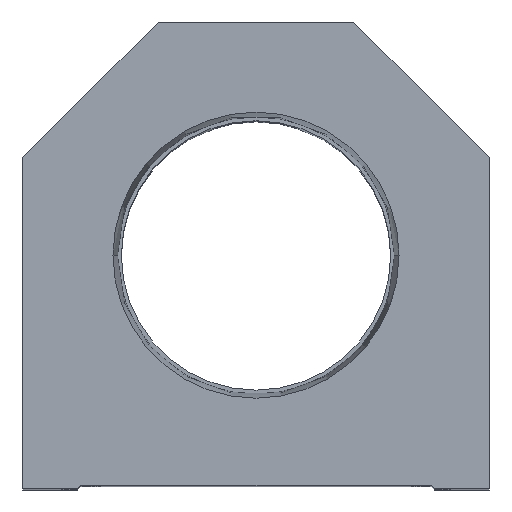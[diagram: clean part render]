
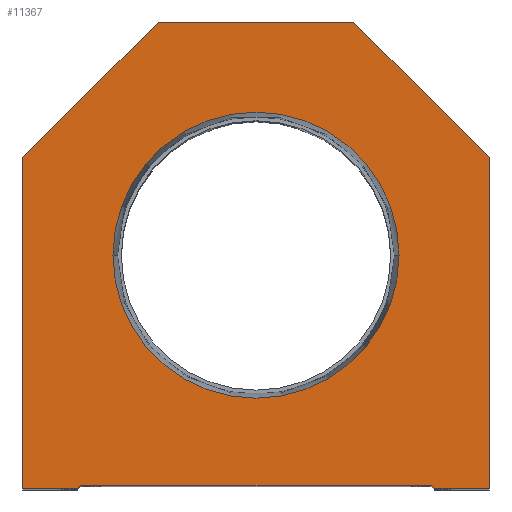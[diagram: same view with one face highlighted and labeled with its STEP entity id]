
A CAD part, top view. The second image highlights one B-rep face of the part: STEP entity #11367.
In plain terms, the highlighted planar face has unit normal (0, 0, 1).
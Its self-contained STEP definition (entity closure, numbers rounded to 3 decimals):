
#53 = EDGE_CURVE ( 'NONE', #5930, #1970, #2310, .T. ) ;
#469 = LINE ( 'NONE', #14337, #9829 ) ;
#497 = ORIENTED_EDGE ( 'NONE', *, *, #2558, .T. ) ;
#542 = DIRECTION ( 'NONE',  ( 0.707, -0.707, 0. ) ) ;
#573 = DIRECTION ( 'NONE',  ( 0., 0., 1. ) ) ;
#614 = CARTESIAN_POINT ( 'NONE',  ( 38.1, 54.1, 0. ) ) ;
#785 = VECTOR ( 'NONE', #2004, 1000. ) ;
#953 = DIRECTION ( 'NONE',  ( 0., 0., 1. ) ) ;
#1275 = EDGE_CURVE ( 'NONE', #3563, #4965, #469, .T. ) ;
#1364 = CARTESIAN_POINT ( 'NONE',  ( 16., 76.2, 0. ) ) ;
#1684 = VECTOR ( 'NONE', #12701, 1000. ) ;
#1834 = VERTEX_POINT ( 'NONE', #5178 ) ;
#1872 = CARTESIAN_POINT ( 'NONE',  ( 0., 38.1, 0. ) ) ;
#1957 = CARTESIAN_POINT ( 'NONE',  ( -28.6, 0., 0. ) ) ;
#1970 = VERTEX_POINT ( 'NONE', #8639 ) ;
#2004 = DIRECTION ( 'NONE',  ( 1., 0., 0. ) ) ;
#2014 = VECTOR ( 'NONE', #6576, 1000. ) ;
#2024 = ORIENTED_EDGE ( 'NONE', *, *, #10524, .T. ) ;
#2100 = LINE ( 'NONE', #1957, #14247 ) ;
#2123 = CARTESIAN_POINT ( 'NONE',  ( -16., 76.2, 0. ) ) ;
#2145 = VECTOR ( 'NONE', #7634, 1000. ) ;
#2288 = ORIENTED_EDGE ( 'NONE', *, *, #14047, .T. ) ;
#2310 = CIRCLE ( 'NONE', #3775, 23.374 ) ;
#2522 = VERTEX_POINT ( 'NONE', #2123 ) ;
#2558 = EDGE_CURVE ( 'NONE', #2935, #2522, #4571, .T. ) ;
#2592 = VECTOR ( 'NONE', #12531, 1000. ) ;
#2655 = DIRECTION ( 'NONE',  ( 1., 0., 0. ) ) ;
#2890 = VERTEX_POINT ( 'NONE', #11705 ) ;
#2935 = VERTEX_POINT ( 'NONE', #9778 ) ;
#2943 = CARTESIAN_POINT ( 'NONE',  ( -28.6, 0.5, 0. ) ) ;
#3273 = CARTESIAN_POINT ( 'NONE',  ( -38.1, 54.1, 0. ) ) ;
#3282 = CARTESIAN_POINT ( 'NONE',  ( 29.1, 0., 0. ) ) ;
#3314 = VERTEX_POINT ( 'NONE', #4796 ) ;
#3395 = DIRECTION ( 'NONE',  ( 0., 0., 1. ) ) ;
#3408 = LINE ( 'NONE', #10573, #2592 ) ;
#3553 = EDGE_CURVE ( 'NONE', #3314, #5197, #3408, .T. ) ;
#3563 = VERTEX_POINT ( 'NONE', #9362 ) ;
#3775 = AXIS2_PLACEMENT_3D ( 'NONE', #1872, #573, #7508 ) ;
#4225 = CARTESIAN_POINT ( 'NONE',  ( 38.1, 0., 0. ) ) ;
#4250 = DIRECTION ( 'NONE',  ( 1., 0., 0. ) ) ;
#4469 = DIRECTION ( 'NONE',  ( 1., 0., 0. ) ) ;
#4558 = EDGE_CURVE ( 'NONE', #10317, #12317, #5260, .T. ) ;
#4571 = LINE ( 'NONE', #1364, #12773 ) ;
#4796 = CARTESIAN_POINT ( 'NONE',  ( -29.1, 0., 0. ) ) ;
#4965 = VERTEX_POINT ( 'NONE', #3282 ) ;
#5124 = ORIENTED_EDGE ( 'NONE', *, *, #4558, .T. ) ;
#5178 = CARTESIAN_POINT ( 'NONE',  ( -38.1, 0., 0. ) ) ;
#5197 = VERTEX_POINT ( 'NONE', #2943 ) ;
#5260 = LINE ( 'NONE', #4225, #2145 ) ;
#5262 = EDGE_CURVE ( 'NONE', #1970, #5930, #13014, .T. ) ;
#5465 = LINE ( 'NONE', #3273, #1684 ) ;
#5776 = VECTOR ( 'NONE', #2655, 1000. ) ;
#5782 = LINE ( 'NONE', #12362, #785 ) ;
#5930 = VERTEX_POINT ( 'NONE', #9902 ) ;
#6197 = EDGE_CURVE ( 'NONE', #4965, #10317, #12921, .T. ) ;
#6308 = AXIS2_PLACEMENT_3D ( 'NONE', #14812, #3395, #12448 ) ;
#6576 = DIRECTION ( 'NONE',  ( -0.707, 0.707, 0. ) ) ;
#6593 = PLANE ( 'NONE',  #9989 ) ;
#6659 = ORIENTED_EDGE ( 'NONE', *, *, #5262, .F. ) ;
#7186 = CARTESIAN_POINT ( 'NONE',  ( 38.1, 0., 0. ) ) ;
#7508 = DIRECTION ( 'NONE',  ( 1., 0., 0. ) ) ;
#7634 = DIRECTION ( 'NONE',  ( 0., 1., 0. ) ) ;
#8106 = ORIENTED_EDGE ( 'NONE', *, *, #53, .F. ) ;
#8639 = CARTESIAN_POINT ( 'NONE',  ( -23.374, 38.1, 0. ) ) ;
#9243 = CARTESIAN_POINT ( 'NONE',  ( -38.1, 0., 0. ) ) ;
#9313 = ORIENTED_EDGE ( 'NONE', *, *, #10456, .T. ) ;
#9341 = CARTESIAN_POINT ( 'NONE',  ( 38.1, 54.1, 0. ) ) ;
#9352 = EDGE_LOOP ( 'NONE', ( #2288, #9993, #2024, #14626, #14246, #5124, #9313, #497, #12711, #14310 ) ) ;
#9362 = CARTESIAN_POINT ( 'NONE',  ( 28.6, 0.5, 0. ) ) ;
#9778 = CARTESIAN_POINT ( 'NONE',  ( 16., 76.2, 0. ) ) ;
#9829 = VECTOR ( 'NONE', #542, 1000. ) ;
#9902 = CARTESIAN_POINT ( 'NONE',  ( 23.374, 38.1, 0. ) ) ;
#9935 = EDGE_LOOP ( 'NONE', ( #8106, #6659 ) ) ;
#9989 = AXIS2_PLACEMENT_3D ( 'NONE', #13360, #953, #4469 ) ;
#9993 = ORIENTED_EDGE ( 'NONE', *, *, #3553, .T. ) ;
#10007 = LINE ( 'NONE', #614, #2014 ) ;
#10317 = VERTEX_POINT ( 'NONE', #7186 ) ;
#10363 = LINE ( 'NONE', #9243, #14594 ) ;
#10456 = EDGE_CURVE ( 'NONE', #12317, #2935, #10007, .T. ) ;
#10524 = EDGE_CURVE ( 'NONE', #5197, #3563, #5782, .T. ) ;
#10573 = CARTESIAN_POINT ( 'NONE',  ( -14.55, 14.55, 0. ) ) ;
#11002 = EDGE_CURVE ( 'NONE', #2890, #1834, #10363, .T. ) ;
#11367 = ADVANCED_FACE ( 'NONE', ( #12226, #14585 ), #6593, .T. ) ;
#11705 = CARTESIAN_POINT ( 'NONE',  ( -38.1, 54.1, 0. ) ) ;
#11739 = DIRECTION ( 'NONE',  ( -1., 0., 0. ) ) ;
#12226 = FACE_BOUND ( 'NONE', #9935, .T. ) ;
#12317 = VERTEX_POINT ( 'NONE', #9341 ) ;
#12362 = CARTESIAN_POINT ( 'NONE',  ( -28.6, 0.5, 0. ) ) ;
#12448 = DIRECTION ( 'NONE',  ( 1., 0., 0. ) ) ;
#12531 = DIRECTION ( 'NONE',  ( 0.707, 0.707, 0. ) ) ;
#12701 = DIRECTION ( 'NONE',  ( -0.707, -0.707, 0. ) ) ;
#12711 = ORIENTED_EDGE ( 'NONE', *, *, #14488, .T. ) ;
#12773 = VECTOR ( 'NONE', #11739, 1000. ) ;
#12921 = LINE ( 'NONE', #14209, #5776 ) ;
#13014 = CIRCLE ( 'NONE', #6308, 23.374 ) ;
#13360 = CARTESIAN_POINT ( 'NONE',  ( 0., 0., 0. ) ) ;
#13861 = DIRECTION ( 'NONE',  ( 0., -1., 0. ) ) ;
#14047 = EDGE_CURVE ( 'NONE', #1834, #3314, #2100, .T. ) ;
#14209 = CARTESIAN_POINT ( 'NONE',  ( 28.6, 0., 0. ) ) ;
#14246 = ORIENTED_EDGE ( 'NONE', *, *, #6197, .T. ) ;
#14247 = VECTOR ( 'NONE', #4250, 1000. ) ;
#14310 = ORIENTED_EDGE ( 'NONE', *, *, #11002, .T. ) ;
#14337 = CARTESIAN_POINT ( 'NONE',  ( 14.55, 14.55, 0. ) ) ;
#14488 = EDGE_CURVE ( 'NONE', #2522, #2890, #5465, .T. ) ;
#14585 = FACE_OUTER_BOUND ( 'NONE', #9352, .T. ) ;
#14594 = VECTOR ( 'NONE', #13861, 1000. ) ;
#14626 = ORIENTED_EDGE ( 'NONE', *, *, #1275, .T. ) ;
#14812 = CARTESIAN_POINT ( 'NONE',  ( 0., 38.1, 0. ) ) ;
